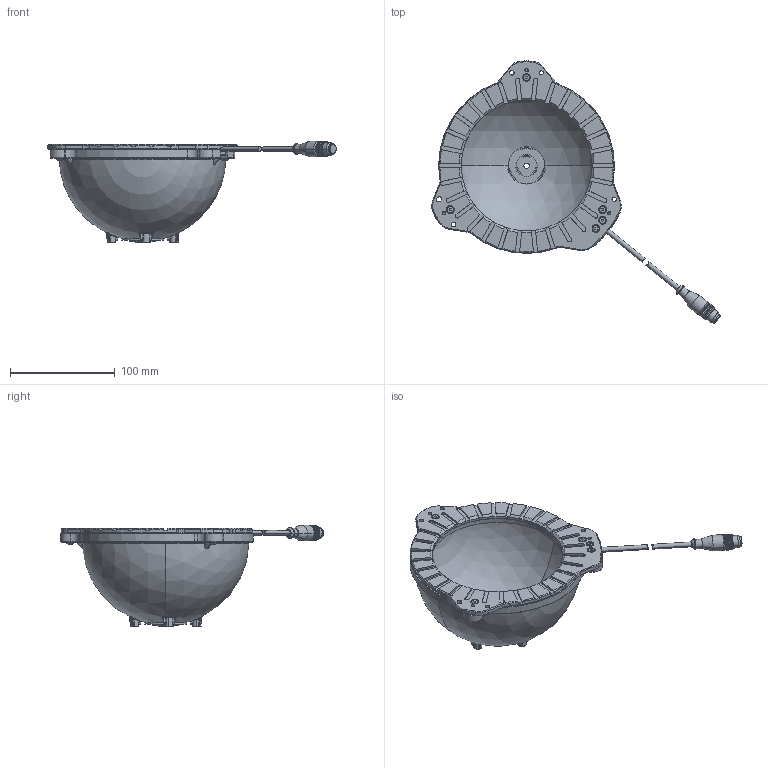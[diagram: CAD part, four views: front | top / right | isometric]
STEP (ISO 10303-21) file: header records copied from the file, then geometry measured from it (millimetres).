
FILE_DESCRIPTION (( 'STEP AP214' ), '1' );
FILE_NAME ('TPL_SDOME-II_130_B.STEP', '2015-05-29T08:33:19', ( 'SCDESIGN08' ), ( '' ), 'SwSTEP 2.0', 'SolidWorks 2014', '' );
FILE_SCHEMA (( 'AUTOMOTIVE_DESIGN' ));
Length unit declared in the file: millimetre
Products named in the file (14): VIS BHC_M4x10; EC-03-063-102_130; TPL_SDOME-II_130_B; INSERT_M3_L4; 000778; 011696; 011630; VIS BHC_M3x5; Vis FHC_DIN7991 M3x6; EC-01-007-007; 005974; EC-03-063-111; Circuit 130; Vis FHC_DIN7991 M3x8
Assembly tree (21 placements, depth 2):
  TPL_SDOME-II_130_B
    EC-03-063-102_130
    VIS BHC_M4x10  x3
    Vis FHC_DIN7991 M3x8  x3
    Circuit 130
    EC-03-063-111
    005974
    EC-01-007-007
    Vis FHC_DIN7991 M3x6  x2
    VIS BHC_M3x5
    011630
    011696
    000778
    INSERT_M3_L4  x4
Bounding box: 275.19 x 251 x 97.15 mm (x, y, z)
Volume: 176744.4 mm3; surface area: 181352.4 mm2
Topology: 22 solids, 22 shells, 2038 faces, 5079 edges, 3227 vertices
Faces by surface type: plane 963, cylinder 479, cone 210, bspline 206, torus 126, sphere 54
Entity records: 66664 total; most frequent: CARTESIAN_POINT 20010, ORIENTED_EDGE 9634, DIRECTION 9188, EDGE_CURVE 4817, AXIS2_PLACEMENT_3D 3290, VERTEX_POINT 3075, VECTOR 2608, LINE 2608
